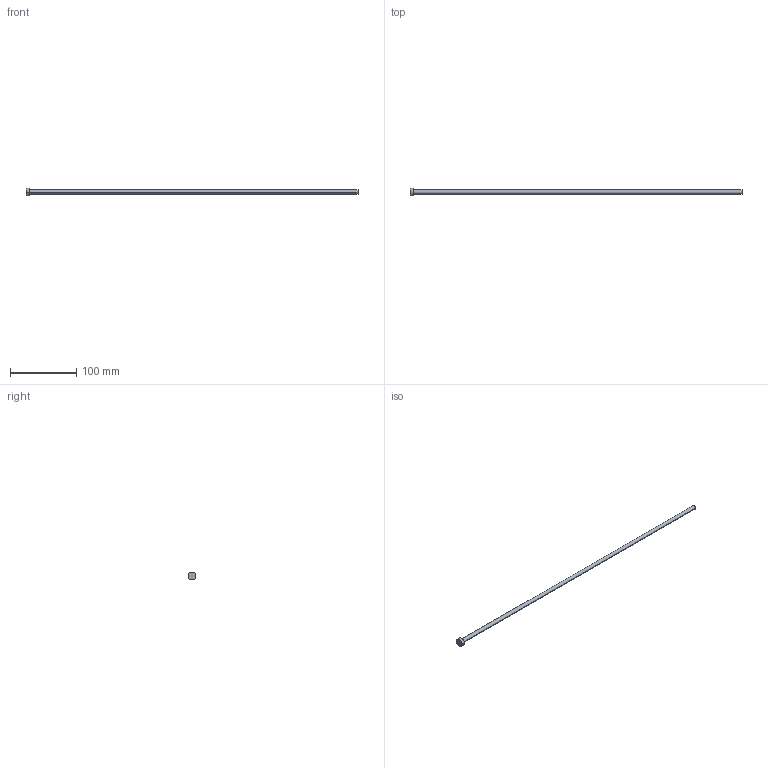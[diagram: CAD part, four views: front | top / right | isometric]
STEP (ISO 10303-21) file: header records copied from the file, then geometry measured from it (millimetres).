
FILE_DESCRIPTION (( 'STEP AP214' ), '1' );
FILE_NAME ('A-6,2x500.STEP', '2020-05-29T15:37:53', ( 'August' ), ( '' ), 'SwSTEP 2.0', 'SolidWorks 2018', '' );
FILE_SCHEMA (( 'AUTOMOTIVE_DESIGN' ));
Length unit declared in the file: millimetre
Products named in the file (1): A-6,2x500
Bounding box: 500 x 12 x 12 mm (x, y, z)
Volume: 15511 mm3; surface area: 10052.2 mm2
Topology: 1 solids, 1 shells, 9 faces, 16 edges, 10 vertices
Faces by surface type: cylinder 4, plane 3, torus 2
Entity records: 260 total; most frequent: DIRECTION 48, CARTESIAN_POINT 36, ORIENTED_EDGE 32, AXIS2_PLACEMENT_3D 22, EDGE_CURVE 16, CIRCLE 12, EDGE_LOOP 10, VERTEX_POINT 10
